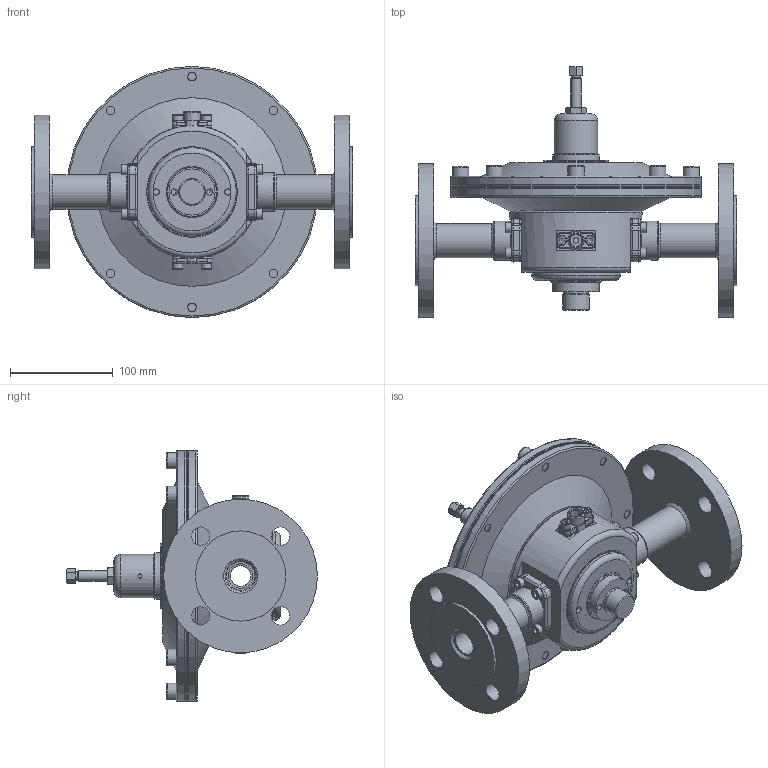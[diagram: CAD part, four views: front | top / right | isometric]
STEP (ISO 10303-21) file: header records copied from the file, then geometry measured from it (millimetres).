
FILE_DESCRIPTION(/* description */ (''),/* implementation_level */ '2;1');
FILE_NAME(/* name */ 'B-R160-1AA-CF39_03.step',/* time_stamp */ '2023-09-11T06:57:07+02:00',/* author */ (''),/* organization */ (''),/* preprocessor_version */ 'ST-DEVELOPER v20',/* originating_system */ 'Autodesk Translation Framework v12.9.0.99',/* authorisation */ '');
FILE_SCHEMA (('AUTOMOTIVE_DESIGN { 1 0 10303 214 3 1 1 }'));
Length unit declared in the file: millimetre
Products named in the file (31): (Nicht gespeichert); P20697; OR 07021; P37129; P37131; P34186; P23081; P23078; P64035; P64036; P43162; P43162_1; P43162_2; P43162_3; P43162_4; P43162_5; 0DC10612; C58302; C58302_1; C58302_Saldature; P57103; 0PB3EEN02AK; P37083; 0DC10410; OR 07075; P43145; 0DN11400; P31009; P37103; P34197; P34200
Assembly tree (54 placements, depth 3):
  (Nicht gespeichert)
    P20697
    OR 07021  x2
    0DC10410  x12
    P37129
    P37131
    P34186
    P23081
    P23078
    P64035
    P64036
    P43162
    P43162_1
    P43162_2
    P43162_3
    P43162_4
    P43162_5
    0DC10612  x8
    C58302
      C58302_Saldature
      P57103
      0PB3EEN02AK
      P37083
    OR 07075  x2
    C58302_1
      C58302_Saldature
      P57103
      0PB3EEN02AK
      P37083
    P43145
    0DN11400
    P31009
    P37103
    P34197
    P34200
Bounding box: 314 x 244.7 x 245 mm (x, y, z)
Volume: 1534792.7 mm3; surface area: 538314.2 mm2
Topology: 56 solids, 56 shells, 978 faces, 2351 edges, 1502 vertices
Faces by surface type: plane 329, cylinder 263, cone 183, torus 150, bspline 53
Full cylindrical faces by diameter (mm): 3 x1, 4.134 x2, 4.917 x12, 5.6 x1, 6 x16, 6.5 x14, 7.7 x2, 8.3 x1, 8.376 x14, 8.566 x1, 8.917 x2, 10 x27, 10.5 x24, 11.2 x2, 11.445 x1, 16 x8, 16.5 x1, 18 x8, 19 x1, 20 x1, 24 x4, 25 x1, 26 x1, 28 x1, 29.5 x2, 30.291 x2, 33.25 x2, 33.4 x6, 33.5 x4, 34.6 x2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
Entity records: 21950 total; most frequent: CARTESIAN_POINT 6316, DIRECTION 3280, ORIENTED_EDGE 2884, EDGE_CURVE 1442, AXIS2_PLACEMENT_3D 1429, VERTEX_POINT 921, EDGE_LOOP 783, CIRCLE 759
